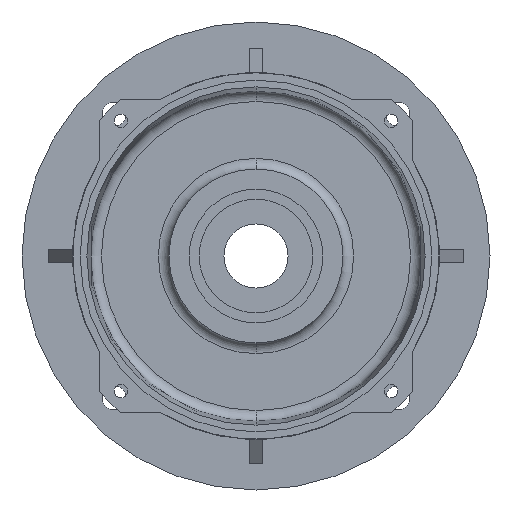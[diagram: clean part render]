
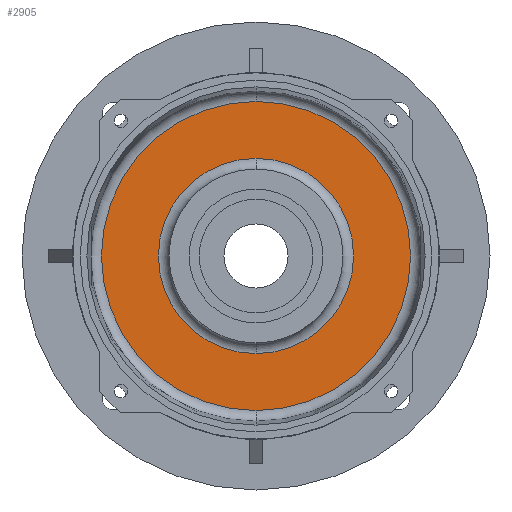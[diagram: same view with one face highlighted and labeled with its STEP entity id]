
A CAD part, front view. The second image highlights one B-rep face of the part: STEP entity #2905.
In plain terms, the highlighted planar face has unit normal (0, -1, 0).
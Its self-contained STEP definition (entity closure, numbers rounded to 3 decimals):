
#201 = AXIS2_PLACEMENT_3D ( 'NONE', #714, #381, #1018 ) ;
#245 = VERTEX_POINT ( 'NONE', #1946 ) ;
#265 = ORIENTED_EDGE ( 'NONE', *, *, #699, .F. ) ;
#301 = CARTESIAN_POINT ( 'NONE',  ( 0., -4.723, 0. ) ) ;
#381 = DIRECTION ( 'NONE',  ( 0., 1., 0. ) ) ;
#418 = DIRECTION ( 'NONE',  ( 0., 0., 1. ) ) ;
#466 = CARTESIAN_POINT ( 'NONE',  ( 0., -4.723, 0. ) ) ;
#557 = DIRECTION ( 'NONE',  ( 0., 0., 1. ) ) ;
#699 = EDGE_CURVE ( 'NONE', #245, #1638, #1206, .T. ) ;
#714 = CARTESIAN_POINT ( 'NONE',  ( 0., -4.723, 0. ) ) ;
#784 = DIRECTION ( 'NONE',  ( 0., 0., -1. ) ) ;
#887 = DIRECTION ( 'NONE',  ( 0., 1., 0. ) ) ;
#947 = EDGE_LOOP ( 'NONE', ( #265, #1543 ) ) ;
#1018 = DIRECTION ( 'NONE',  ( 0., 0., 1. ) ) ;
#1206 = CIRCLE ( 'NONE', #3569, 115.607 ) ;
#1229 = EDGE_LOOP ( 'NONE', ( #1466, #3869 ) ) ;
#1372 = DIRECTION ( 'NONE',  ( 0., -1., 0. ) ) ;
#1415 = PLANE ( 'NONE',  #3504 ) ;
#1428 = AXIS2_PLACEMENT_3D ( 'NONE', #1916, #1623, #418 ) ;
#1466 = ORIENTED_EDGE ( 'NONE', *, *, #3747, .T. ) ;
#1513 = CIRCLE ( 'NONE', #2521, 73. ) ;
#1543 = ORIENTED_EDGE ( 'NONE', *, *, #3772, .F. ) ;
#1623 = DIRECTION ( 'NONE',  ( 0., 1., 0. ) ) ;
#1638 = VERTEX_POINT ( 'NONE', #3314 ) ;
#1916 = CARTESIAN_POINT ( 'NONE',  ( 0., -4.723, 0. ) ) ;
#1946 = CARTESIAN_POINT ( 'NONE',  ( 0., -4.723, 115.607 ) ) ;
#2245 = DIRECTION ( 'NONE',  ( 0., 1., 0. ) ) ;
#2513 = CARTESIAN_POINT ( 'NONE',  ( 0., -4.723, -73. ) ) ;
#2521 = AXIS2_PLACEMENT_3D ( 'NONE', #301, #887, #557 ) ;
#2799 = CIRCLE ( 'NONE', #1428, 73. ) ;
#2848 = FACE_OUTER_BOUND ( 'NONE', #947, .T. ) ;
#2905 = ADVANCED_FACE ( 'NONE', ( #3975, #2848 ), #1415, .T. ) ;
#3170 = CARTESIAN_POINT ( 'NONE',  ( 0., -4.723, 73. ) ) ;
#3314 = CARTESIAN_POINT ( 'NONE',  ( 0., -4.723, -115.607 ) ) ;
#3327 = VERTEX_POINT ( 'NONE', #3170 ) ;
#3483 = EDGE_CURVE ( 'NONE', #3836, #3327, #1513, .T. ) ;
#3504 = AXIS2_PLACEMENT_3D ( 'NONE', #3561, #1372, #784 ) ;
#3561 = CARTESIAN_POINT ( 'NONE',  ( -73., -4.723, 0. ) ) ;
#3569 = AXIS2_PLACEMENT_3D ( 'NONE', #466, #2245, #3802 ) ;
#3747 = EDGE_CURVE ( 'NONE', #3327, #3836, #2799, .T. ) ;
#3772 = EDGE_CURVE ( 'NONE', #1638, #245, #3916, .T. ) ;
#3802 = DIRECTION ( 'NONE',  ( 0., 0., 1. ) ) ;
#3836 = VERTEX_POINT ( 'NONE', #2513 ) ;
#3869 = ORIENTED_EDGE ( 'NONE', *, *, #3483, .T. ) ;
#3916 = CIRCLE ( 'NONE', #201, 115.607 ) ;
#3975 = FACE_BOUND ( 'NONE', #1229, .T. ) ;
